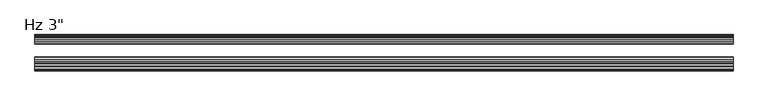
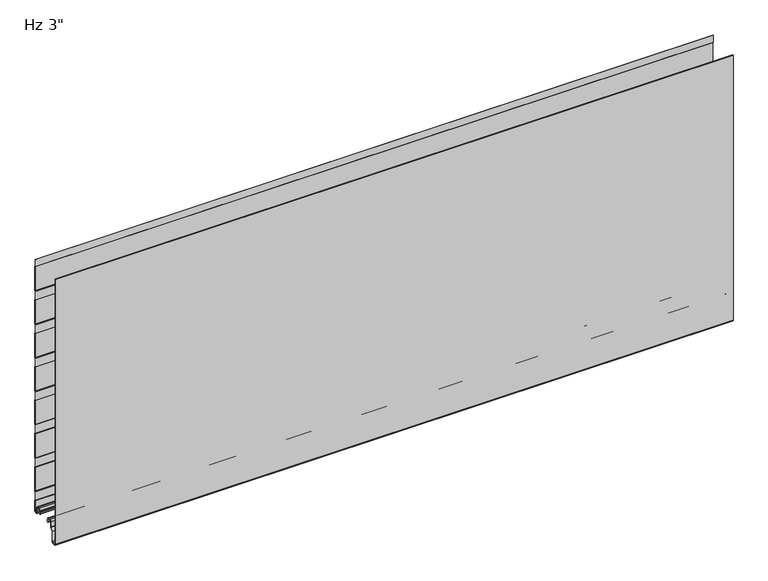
"""IFC4 building model written with IfcOpenShell, lengths in millimetres: plate geometry."""

from ifc_helpers import new_model, si_unit, point, frame, frame_2d, origin, place, context, project, spatial, polyline, circle_curve, trimmed, segment, composite_curve, outline, extrude, source, transform, mapped, element, save
from ifc_brep_helpers import plane_surface, cylinder_surface, revolved_surface, advanced_brep


def plate_374e56f4(model_context):
    return source(origin(), model_context, "Body", "SolidModel", [
        extrude(outline(composite_curve([segment(trimmed(circle_curve(frame_2d((-72.6297491, -32.4521148)), 3.5702393), [point((-72.3184787, -36.0087592))], [point((-76.1999884, -32.4521125))], False, "CARTESIAN"), True, "CONTINUOUS"), segment(polyline([(-76.1999884, -32.4521125), (-76.1996024, 571.2), (-75.1993815, 571.2), (-75.1993815, -32.509446)]), True, "CONTINUOUS"), segment(trimmed(circle_curve(frame_2d((-72.6297816, -32.4521176)), 2.5702393), [point((-75.1993815, -32.509446))], [point((-72.405696, -35.0125699))], True, "CARTESIAN"), True, "CONTINUOUS"), segment(polyline([(-72.405696, -35.0125699), (-67.4238751, -34.5765709)]), True, "CONTINUOUS"), segment(trimmed(circle_curve(frame_2d((-67.9052657, -31.9198392)), 2.6999926), [point((-67.4238751, -34.5765709))], [point((-65.2052731, -31.9198392))], True, "CARTESIAN"), True, "CONTINUOUS"), segment(polyline([(-65.2052731, -31.9198392), (-65.2052731, -9.8247096), (-59.703202, -4.3226385)]), True, "CONTINUOUS"), segment(trimmed(circle_curve(frame_2d((-60.9052797, -3.1205608)), 1.6999946), [point((-59.703202, -4.3226385))], [point((-59.2052851, -3.1205608))], True, "CARTESIAN"), True, "CONTINUOUS"), segment(polyline([(-59.2052851, -3.1205608), (-59.2052851, 8.6903283)]), True, "CONTINUOUS"), segment(trimmed(circle_curve(frame_2d((-55.8552898, 8.6903283)), 3.3499953), [point((-59.2052851, 8.6903283))], [point((-55.8552898, 12.0403236))], False, "CARTESIAN"), True, "CONTINUOUS"), segment(polyline([(-55.8552898, 12.0403236), (-51.4552986, 12.0403236)]), True, "CONTINUOUS"), segment(trimmed(circle_curve(frame_2d((-51.4552986, 8.6903283)), 3.3499953), [point((-51.4552986, 12.0403236))], [point((-48.1053033, 8.6903283))], False, "CARTESIAN"), True, "CONTINUOUS"), segment(polyline([(-48.1053033, 8.6903283), (-48.1053033, 5.9912173), (-46.7068244, 5.9912173), (-46.7068244, 2.2328239)]), True, "CONTINUOUS"), segment(trimmed(circle_curve(frame_2d((-47.9068211, 2.2313092)), 1.1999976), [point((-46.7068244, 2.2328239))], [point((-47.8762992, 1.0316999))], False, "CARTESIAN"), True, "CONTINUOUS"), segment(trimmed(circle_curve(frame_2d((-47.9068211, 2.2313092)), 1.1999976), [point((-47.8762992, 1.0316999))], [point((-49.1053033, 2.1710221))], False, "CARTESIAN"), True, "CONTINUOUS"), segment(polyline([(-49.1053033, 2.1710221), (-49.1053033, 8.6903283)]), True, "CONTINUOUS"), segment(trimmed(circle_curve(frame_2d((-51.4552986, 8.6903283)), 2.3499953), [point((-49.1053033, 8.6903283))], [point((-51.4552986, 11.0403236))], True, "CARTESIAN"), True, "CONTINUOUS"), segment(polyline([(-51.4552986, 11.0403236), (-55.8552898, 11.0403236)]), True, "CONTINUOUS"), segment(trimmed(circle_curve(frame_2d((-55.8552898, 8.6903283)), 2.3499953), [point((-55.8552898, 11.0403236))], [point((-58.2052851, 8.6903283))], True, "CARTESIAN"), True, "CONTINUOUS"), segment(polyline([(-58.2052851, 8.6903283), (-58.2052851, -3.1205608)]), True, "CONTINUOUS"), segment(trimmed(circle_curve(frame_2d((-60.9052797, -3.1205608)), 2.6999946), [point((-58.2052851, -3.1205608))], [point((-58.9960952, -5.0297453))], False, "CARTESIAN"), True, "CONTINUOUS"), segment(polyline([(-58.9960952, -5.0297453), (-63.8245127, -9.8581627)]), True, "CONTINUOUS"), segment(trimmed(circle_curve(frame_2d((-62.9052757, -10.7773997)), 1.2999974), [point((-63.8245127, -9.8581627))], [point((-64.2052731, -10.7773997))], True, "CARTESIAN"), True, "CONTINUOUS"), segment(polyline([(-64.2052731, -10.7773997), (-64.2052731, -31.9198392)]), True, "CONTINUOUS"), segment(trimmed(circle_curve(frame_2d((-67.9052657, -31.9198392)), 3.6999926), [point((-64.2052731, -31.9198392))], [point((-67.2944646, -35.5690675))], False, "CARTESIAN"), True, "CONTINUOUS"), segment(polyline([(-67.2944646, -35.5690675), (-72.3184787, -36.0087592)]), True, "CONTINUOUS")], self_intersect=False)), frame((-730.0, 0.0, 0.0), z_axis=(1.0, 0.0, 0.0), x_axis=(0.0, 1.0, 0.0)), (0.0, 0.0, 1.0), 1460.0),
        advanced_brep(
        [(-730.0, -17.0015368, 2.0313088), (-730.0, -18.00154, 1.0313116), (-730.0, -19.0015314, 2.0313088), (-730.0, -19.0015314, 6.0315125), (-730.0, -18.0015368, 6.0315125), (-730.0, -18.0015368, 8.7237223), (-730.0, -14.7015411, 12.023718), (-730.0, -10.3015499, 12.023718), (-730.0, -7.0015544, 8.7237225), (-730.0, -7.0015544, -1.6962564), (-730.0, -5.2315602, -3.4662506), (-730.0, -1.0000126, -3.4662506), (-730.0, -1.0000126, 21.034026), (-730.0, -2.2002516, 22.4196686), (-730.0, -2.2002516, 41.7948349), (-730.0, -1.0000209, 43.1804679), (-730.0, -1.0000209, 97.2338833), (-730.0, -2.2002516, 98.6195162), (-730.0, -2.2002516, 117.9946825), (-730.0, -1.0000209, 119.3803155), (-730.0, -1.0000209, 173.4337309), (-730.0, -2.2002516, 174.8193638), (-730.0, -2.2002516, 194.1945301), (-730.0, -1.0000209, 195.5801631), (-730.0, -1.0000209, 249.6335785), (-730.0, -2.2002516, 251.0192114), (-730.0, -2.2002516, 270.3943777), (-730.0, -1.0000209, 271.7800107), (-730.0, -1.0000209, 325.8334261), (-730.0, -2.2002516, 327.219059), (-730.0, -2.2002516, 346.5942253), (-730.0, -1.0000209, 347.9798583), (-730.0, -1.0000209, 402.0332737), (-730.0, -2.2002516, 403.4189066), (-730.0, -2.2002516, 422.7940729), (-730.0, -1.0000209, 424.1797059), (-730.0, -1.0000209, 478.2331213), (-730.0, -2.2002516, 479.6187542), (-730.0, -2.2002516, 498.9939205), (-730.0, -1.0000209, 500.3795535), (-730.0, -1.0000209, 554.4329689), (-730.0, -2.2002516, 555.8186018), (-730.0, -2.2002516, 571.2), (-730.0, -1.2002516, 571.2), (-730.0, -1.2002516, 556.1914823), (-730.0, -0.3418094, 555.2004346), (-730.0, -2.09e-05, 554.2838177), (-730.0, -2.09e-05, 500.5287046), (-730.0, -0.3418094, 499.6120877), (-730.0, -1.2002516, 498.6210401), (-730.0, -1.2002516, 479.9916347), (-730.0, -0.3418094, 479.000587), (-730.0, -2.09e-05, 478.0839701), (-730.0, -2.09e-05, 424.328857), (-730.0, -0.3418094, 423.4122401), (-730.0, -1.2002516, 422.4211925), (-730.0, -1.2002516, 403.7917871), (-730.0, -0.3418094, 402.8007394), (-730.0, -2.09e-05, 401.8841225), (-730.0, -2.09e-05, 348.1290094), (-730.0, -0.3418094, 347.2123925), (-730.0, -1.2002516, 346.2213449), (-730.0, -1.2002516, 327.5919395), (-730.0, -0.3418094, 326.6008918), (-730.0, -2.09e-05, 325.6842749), (-730.0, -2.09e-05, 271.9291618), (-730.0, -0.3418094, 271.0125449), (-730.0, -1.2002516, 270.0214973), (-730.0, -1.2002516, 251.3920919), (-730.0, -0.3418094, 250.4010442), (-730.0, -2.09e-05, 249.4844273), (-730.0, -2.09e-05, 195.7293142), (-730.0, -0.3418094, 194.8126973), (-730.0, -1.2002516, 193.8216497), (-730.0, -1.2002516, 175.1922443), (-730.0, -0.3418094, 174.2011966), (-730.0, -2.09e-05, 173.2845797), (-730.0, -2.09e-05, 119.5294666), (-730.0, -0.3418094, 118.6128497), (-730.0, -1.2002516, 117.6218021), (-730.0, -1.2002516, 98.9923967), (-730.0, -0.3418094, 98.001349), (-730.0, -2.09e-05, 97.0847321), (-730.0, -2.09e-05, 43.329619), (-730.0, -0.3418094, 42.4130021), (-730.0, -1.2002516, 41.4219545), (-730.0, -1.2002516, 22.7925491), (-730.0, -0.3418094, 21.8015014), (-730.0, -2.09e-05, 20.8847931), (-730.0, -1.26e-05, -3.0662545), (-730.0, -1.4000087, -4.4662506), (-730.0, -5.2315602, -4.4662506), (-730.0, -8.0015544, -1.6962564), (-730.0, -8.0015544, 8.7237225), (-730.0, -10.3015499, 11.023718), (-730.0, -14.7015411, 11.023718), (-730.0, -17.0015368, 8.7237223), (730.0, -17.0015368, 2.0313088), (730.0, -17.0015368, 8.7237223), (730.0, -14.7015411, 11.023718), (730.0, -10.3015499, 11.023718), (730.0, -8.0015544, 8.7237225), (730.0, -8.0015544, -1.6962564), (730.0, -5.2315602, -4.4662506), (730.0, -1.4000087, -4.4662506), (730.0, -1.26e-05, -3.0662545), (730.0, -1.26e-05, 20.8848845), (730.0, -0.3418094, 21.8015014), (730.0, -1.2002516, 22.7925491), (730.0, -1.2002516, 41.4219545), (730.0, -0.3418094, 42.4130021), (730.0, -2.09e-05, 43.329619), (730.0, -2.09e-05, 97.0847321), (730.0, -0.3418094, 98.001349), (730.0, -1.2002516, 98.9923967), (730.0, -1.2002516, 117.6218021), (730.0, -0.3418094, 118.6128497), (730.0, -2.09e-05, 119.5294666), (730.0, -2.09e-05, 173.2845797), (730.0, -0.3418094, 174.2011966), (730.0, -1.2002516, 175.1922443), (730.0, -1.2002516, 193.8216497), (730.0, -0.3418094, 194.8126973), (730.0, -2.09e-05, 195.7293142), (730.0, -2.09e-05, 249.4844273), (730.0, -0.3418094, 250.4010442), (730.0, -1.2002516, 251.3920919), (730.0, -1.2002516, 270.0214973), (730.0, -0.3418094, 271.0125449), (730.0, -2.09e-05, 271.9291618), (730.0, -2.09e-05, 325.6842749), (730.0, -0.3418094, 326.6008918), (730.0, -1.2002516, 327.5919395), (730.0, -1.2002516, 346.2213449), (730.0, -0.3418094, 347.2123925), (730.0, -2.09e-05, 348.1290094), (730.0, -2.09e-05, 401.8841225), (730.0, -0.3418094, 402.8007394), (730.0, -1.2002516, 403.7917871), (730.0, -1.2002516, 422.4211925), (730.0, -0.3418094, 423.4122401), (730.0, -2.09e-05, 424.328857), (730.0, -2.09e-05, 478.0839701), (730.0, -0.3418094, 479.000587), (730.0, -1.2002516, 479.9916347), (730.0, -1.2002516, 498.6210401), (730.0, -0.3418094, 499.6120877), (730.0, -2.09e-05, 500.5287046), (730.0, -2.09e-05, 554.2838177), (730.0, -0.3418094, 555.2004346), (730.0, -1.2002516, 556.1914823), (730.0, -1.2002516, 571.2), (730.0, -2.2002516, 571.2), (730.0, -2.2002516, 555.8186018), (730.0, -1.0000209, 554.4329689), (730.0, -1.0000209, 500.3795535), (730.0, -2.2002516, 498.9939205), (730.0, -2.2002516, 479.6187542), (730.0, -1.0000209, 478.2331213), (730.0, -1.0000209, 424.1797059), (730.0, -2.2002516, 422.7940729), (730.0, -2.2002516, 403.4189066), (730.0, -1.0000209, 402.0332737), (730.0, -1.0000209, 347.9798583), (730.0, -2.2002516, 346.5942253), (730.0, -2.2002516, 327.219059), (730.0, -1.0000209, 325.8334261), (730.0, -1.0000209, 271.7800107), (730.0, -2.2002516, 270.3943777), (730.0, -2.2002516, 251.0192114), (730.0, -1.0000209, 249.6335785), (730.0, -1.0000209, 195.5801631), (730.0, -2.2002516, 194.1945301), (730.0, -2.2002516, 174.8193638), (730.0, -1.0000209, 173.4337309), (730.0, -1.0000209, 119.3803155), (730.0, -2.2002516, 117.9946825), (730.0, -2.2002516, 98.6195162), (730.0, -1.0000209, 97.2338833), (730.0, -1.0000209, 43.1804679), (730.0, -2.2002516, 41.7948349), (730.0, -2.2002516, 22.4196686), (730.0, -1.0000126, 21.034026), (730.0, -1.0000126, -3.4662506), (730.0, -5.2315602, -3.4662506), (730.0, -7.0015544, -1.6962564), (730.0, -7.0015544, 8.7237225), (730.0, -10.3015499, 12.023718), (730.0, -14.7015411, 12.023718), (730.0, -18.0015368, 8.7237223), (730.0, -18.0015368, 6.0315125), (730.0, -19.0015314, 6.0315125), (730.0, -19.0015314, 2.0313088), (730.0, -18.0015401, 1.0313116)],
        [
            (0, 1, circle_curve(frame((-730.0, -18.0015341, 2.0313088), z_axis=(-1.0, 0.0, 0.0), x_axis=(0.0, 0.0, 1.0)), 0.9999973)),
            (1, 2, circle_curve(frame((-730.0, -18.0015342, 2.0313088), z_axis=(-1.0, 0.0, 0.0), x_axis=(0.0, 0.0, 1.0)), 0.9999972)),
            (2, 3),
            (3, 4),
            (4, 5),
            (5, 6, circle_curve(frame((-730.0, -14.7015411, 8.7237223), z_axis=(-1.0, 0.0, 0.0), x_axis=(0.0, 0.0, 1.0)), 3.2999957)),
            (6, 7),
            (7, 8, circle_curve(frame((-730.0, -10.3015499, 8.7237225), z_axis=(-1.0, 0.0, 0.0), x_axis=(0.0, 0.0, 1.0)), 3.2999955)),
            (8, 9),
            (9, 10, circle_curve(frame((-730.0, -5.2315602, -1.6962564), z_axis=(1.0, 0.0, 0.0), x_axis=(0.0, 0.0, 1.0)), 1.7699942)),
            (10, 11),
            (11, 12),
            (12, 13),
            (13, 14),
            (14, 15),
            (15, 16),
            (16, 17),
            (17, 18),
            (18, 19),
            (19, 20),
            (20, 21),
            (21, 22),
            (22, 23),
            (23, 24),
            (24, 25),
            (25, 26),
            (26, 27),
            (27, 28),
            (28, 29),
            (29, 30),
            (30, 31),
            (31, 32),
            (32, 33),
            (33, 34),
            (34, 35),
            (35, 36),
            (36, 37),
            (37, 38),
            (38, 39),
            (39, 40),
            (40, 41),
            (41, 42),
            (42, 43),
            (43, 44),
            (44, 45),
            (45, 46, circle_curve(frame((-730.0, -1.4000181, 554.2838177), z_axis=(-1.0, 0.0, 0.0), x_axis=(0.0, 0.0, 1.0)), 1.3999972)),
            (46, 47),
            (47, 48, circle_curve(frame((-730.0, -1.4000181, 500.5287046), z_axis=(-1.0, 0.0, 0.0), x_axis=(0.0, 0.0, 1.0)), 1.3999972)),
            (48, 49),
            (49, 50),
            (50, 51),
            (51, 52, circle_curve(frame((-730.0, -1.4000181, 478.0839701), z_axis=(-1.0, 0.0, 0.0), x_axis=(0.0, 0.0, 1.0)), 1.3999972)),
            (52, 53),
            (53, 54, circle_curve(frame((-730.0, -1.4000181, 424.328857), z_axis=(-1.0, 0.0, 0.0), x_axis=(0.0, 0.0, 1.0)), 1.3999972)),
            (54, 55),
            (55, 56),
            (56, 57),
            (57, 58, circle_curve(frame((-730.0, -1.4000181, 401.8841225), z_axis=(-1.0, 0.0, 0.0), x_axis=(0.0, 0.0, 1.0)), 1.3999972)),
            (58, 59),
            (59, 60, circle_curve(frame((-730.0, -1.4000181, 348.1290094), z_axis=(-1.0, 0.0, 0.0), x_axis=(0.0, 0.0, 1.0)), 1.3999972)),
            (60, 61),
            (61, 62),
            (62, 63),
            (63, 64, circle_curve(frame((-730.0, -1.4000181, 325.6842749), z_axis=(-1.0, 0.0, 0.0), x_axis=(0.0, 0.0, 1.0)), 1.3999972)),
            (64, 65),
            (65, 66, circle_curve(frame((-730.0, -1.4000181, 271.9291618), z_axis=(-1.0, 0.0, 0.0), x_axis=(0.0, 0.0, 1.0)), 1.3999972)),
            (66, 67),
            (67, 68),
            (68, 69),
            (69, 70, circle_curve(frame((-730.0, -1.4000181, 249.4844273), z_axis=(-1.0, 0.0, 0.0), x_axis=(0.0, 0.0, 1.0)), 1.3999972)),
            (70, 71),
            (71, 72, circle_curve(frame((-730.0, -1.4000181, 195.7293142), z_axis=(-1.0, 0.0, 0.0), x_axis=(0.0, 0.0, 1.0)), 1.3999972)),
            (72, 73),
            (73, 74),
            (74, 75),
            (75, 76, circle_curve(frame((-730.0, -1.4000181, 173.2845797), z_axis=(-1.0, 0.0, 0.0), x_axis=(0.0, 0.0, 1.0)), 1.3999972)),
            (76, 77),
            (77, 78, circle_curve(frame((-730.0, -1.4000181, 119.5294666), z_axis=(-1.0, 0.0, 0.0), x_axis=(0.0, 0.0, 1.0)), 1.3999972)),
            (78, 79),
            (79, 80),
            (80, 81),
            (81, 82, circle_curve(frame((-730.0, -1.4000181, 97.0847321), z_axis=(-1.0, 0.0, 0.0), x_axis=(0.0, 0.0, 1.0)), 1.3999972)),
            (82, 83),
            (83, 84, circle_curve(frame((-730.0, -1.4000181, 43.329619), z_axis=(-1.0, 0.0, 0.0), x_axis=(0.0, 0.0, 1.0)), 1.3999972)),
            (84, 85),
            (85, 86),
            (86, 87),
            (87, 88, circle_curve(frame((-730.0, -1.4000181, 20.8848845), z_axis=(-1.0, 0.0, 0.0), x_axis=(0.0, 0.0, 1.0)), 1.3999972)),
            (88, 89),
            (89, 90, circle_curve(frame((-730.0, -1.4000087, -3.0662545), z_axis=(-1.0, 0.0, 0.0), x_axis=(0.0, 0.0, 1.0)), 1.3999962)),
            (90, 91),
            (91, 92, circle_curve(frame((-730.0, -5.2315602, -1.6962564), z_axis=(-1.0, 0.0, 0.0), x_axis=(0.0, 0.0, 1.0)), 2.7699942)),
            (92, 93),
            (93, 94, circle_curve(frame((-730.0, -10.3015499, 8.7237225), z_axis=(1.0, 0.0, 0.0), x_axis=(0.0, 0.0, 1.0)), 2.2999955)),
            (94, 95),
            (95, 96, circle_curve(frame((-730.0, -14.7015411, 8.7237223), z_axis=(1.0, 0.0, 0.0), x_axis=(0.0, 0.0, 1.0)), 2.2999957)),
            (96, 0),
            (97, 98),
            (98, 99, circle_curve(frame((730.0, -14.7015411, 8.7237223), z_axis=(-1.0, 0.0, 0.0), x_axis=(0.0, 0.0, 1.0)), 2.2999957)),
            (99, 100),
            (100, 101, circle_curve(frame((730.0, -10.3015499, 8.7237225), z_axis=(-1.0, 0.0, 0.0), x_axis=(0.0, 0.0, 1.0)), 2.2999955)),
            (101, 102),
            (102, 103, circle_curve(frame((730.0, -5.2315602, -1.6962564), z_axis=(1.0, 0.0, 0.0), x_axis=(0.0, 0.0, 1.0)), 2.7699942)),
            (103, 104),
            (104, 105, circle_curve(frame((730.0, -1.4000087, -3.0662545), z_axis=(1.0, 0.0, 0.0), x_axis=(0.0, 0.0, 1.0)), 1.3999962)),
            (105, 106),
            (106, 107, circle_curve(frame((730.0, -1.4000181, 20.8848845), z_axis=(1.0, 0.0, 0.0), x_axis=(0.0, 0.0, 1.0)), 1.3999972)),
            (107, 108),
            (108, 109),
            (109, 110),
            (110, 111, circle_curve(frame((730.0, -1.4000181, 43.329619), z_axis=(1.0, 0.0, 0.0), x_axis=(0.0, 0.0, 1.0)), 1.3999972)),
            (111, 112),
            (112, 113, circle_curve(frame((730.0, -1.4000181, 97.0847321), z_axis=(1.0, 0.0, 0.0), x_axis=(0.0, 0.0, 1.0)), 1.3999972)),
            (113, 114),
            (114, 115),
            (115, 116),
            (116, 117, circle_curve(frame((730.0, -1.4000181, 119.5294666), z_axis=(1.0, 0.0, 0.0), x_axis=(0.0, 0.0, 1.0)), 1.3999972)),
            (117, 118),
            (118, 119, circle_curve(frame((730.0, -1.4000181, 173.2845797), z_axis=(1.0, 0.0, 0.0), x_axis=(0.0, 0.0, 1.0)), 1.3999972)),
            (119, 120),
            (120, 121),
            (121, 122),
            (122, 123, circle_curve(frame((730.0, -1.4000181, 195.7293142), z_axis=(1.0, 0.0, 0.0), x_axis=(0.0, 0.0, 1.0)), 1.3999972)),
            (123, 124),
            (124, 125, circle_curve(frame((730.0, -1.4000181, 249.4844273), z_axis=(1.0, 0.0, 0.0), x_axis=(0.0, 0.0, 1.0)), 1.3999972)),
            (125, 126),
            (126, 127),
            (127, 128),
            (128, 129, circle_curve(frame((730.0, -1.4000181, 271.9291618), z_axis=(1.0, 0.0, 0.0), x_axis=(0.0, 0.0, 1.0)), 1.3999972)),
            (129, 130),
            (130, 131, circle_curve(frame((730.0, -1.4000181, 325.6842749), z_axis=(1.0, 0.0, 0.0), x_axis=(0.0, 0.0, 1.0)), 1.3999972)),
            (131, 132),
            (132, 133),
            (133, 134),
            (134, 135, circle_curve(frame((730.0, -1.4000181, 348.1290094), z_axis=(1.0, 0.0, 0.0), x_axis=(0.0, 0.0, 1.0)), 1.3999972)),
            (135, 136),
            (136, 137, circle_curve(frame((730.0, -1.4000181, 401.8841225), z_axis=(1.0, 0.0, 0.0), x_axis=(0.0, 0.0, 1.0)), 1.3999972)),
            (137, 138),
            (138, 139),
            (139, 140),
            (140, 141, circle_curve(frame((730.0, -1.4000181, 424.328857), z_axis=(1.0, 0.0, 0.0), x_axis=(0.0, 0.0, 1.0)), 1.3999972)),
            (141, 142),
            (142, 143, circle_curve(frame((730.0, -1.4000181, 478.0839701), z_axis=(1.0, 0.0, 0.0), x_axis=(0.0, 0.0, 1.0)), 1.3999972)),
            (143, 144),
            (144, 145),
            (145, 146),
            (146, 147, circle_curve(frame((730.0, -1.4000181, 500.5287046), z_axis=(1.0, 0.0, 0.0), x_axis=(0.0, 0.0, 1.0)), 1.3999972)),
            (147, 148),
            (148, 149, circle_curve(frame((730.0, -1.4000181, 554.2838177), z_axis=(1.0, 0.0, 0.0), x_axis=(0.0, 0.0, 1.0)), 1.3999972)),
            (149, 150),
            (150, 151),
            (151, 152),
            (152, 153),
            (153, 154),
            (154, 155),
            (155, 156),
            (156, 157),
            (157, 158),
            (158, 159),
            (159, 160),
            (160, 161),
            (161, 162),
            (162, 163),
            (163, 164),
            (164, 165),
            (165, 166),
            (166, 167),
            (167, 168),
            (168, 169),
            (169, 170),
            (170, 171),
            (171, 172),
            (172, 173),
            (173, 174),
            (174, 175),
            (175, 176),
            (176, 177),
            (177, 178),
            (178, 179),
            (179, 180),
            (180, 181),
            (181, 182),
            (182, 183),
            (183, 184),
            (184, 185, circle_curve(frame((730.0, -5.2315602, -1.6962564), z_axis=(-1.0, 0.0, 0.0), x_axis=(0.0, 0.0, 1.0)), 1.7699942)),
            (185, 186),
            (186, 187, circle_curve(frame((730.0, -10.3015499, 8.7237225), z_axis=(1.0, 0.0, 0.0), x_axis=(0.0, 0.0, 1.0)), 3.2999955)),
            (187, 188),
            (188, 189, circle_curve(frame((730.0, -14.7015411, 8.7237223), z_axis=(1.0, 0.0, 0.0), x_axis=(0.0, 0.0, 1.0)), 3.2999957)),
            (189, 190),
            (190, 191),
            (191, 192),
            (192, 193, circle_curve(frame((730.0, -18.0015342, 2.0313088), z_axis=(1.0, 0.0, 0.0), x_axis=(0.0, 0.0, 1.0)), 0.9999972)),
            (193, 97, circle_curve(frame((730.0, -18.0015341, 2.0313088), z_axis=(1.0, 0.0, 0.0), x_axis=(0.0, 0.0, 1.0)), 0.9999973)),
            (42, 152),
            (151, 43),
            (96, 98),
            (97, 0),
            (95, 99),
            (94, 100),
            (93, 101),
            (92, 102),
            (91, 103),
            (90, 104),
            (89, 105),
            (88, 106),
            (87, 107),
            (86, 108),
            (85, 109),
            (84, 110),
            (83, 111),
            (82, 112),
            (81, 113),
            (80, 114),
            (79, 115),
            (78, 116),
            (77, 117),
            (76, 118),
            (75, 119),
            (74, 120),
            (73, 121),
            (72, 122),
            (71, 123),
            (70, 124),
            (69, 125),
            (68, 126),
            (67, 127),
            (66, 128),
            (65, 129),
            (64, 130),
            (63, 131),
            (62, 132),
            (61, 133),
            (60, 134),
            (59, 135),
            (58, 136),
            (57, 137),
            (56, 138),
            (55, 139),
            (54, 140),
            (53, 141),
            (52, 142),
            (51, 143),
            (50, 144),
            (49, 145),
            (48, 146),
            (47, 147),
            (46, 148),
            (45, 149),
            (44, 150),
            (41, 153),
            (40, 154),
            (39, 155),
            (38, 156),
            (37, 157),
            (36, 158),
            (35, 159),
            (34, 160),
            (33, 161),
            (32, 162),
            (31, 163),
            (30, 164),
            (29, 165),
            (28, 166),
            (27, 167),
            (26, 168),
            (25, 169),
            (24, 170),
            (23, 171),
            (22, 172),
            (21, 173),
            (20, 174),
            (19, 175),
            (18, 176),
            (17, 177),
            (16, 178),
            (15, 179),
            (14, 180),
            (13, 181),
            (12, 182),
            (11, 183),
            (10, 184),
            (9, 185),
            (8, 186),
            (7, 187),
            (6, 188),
            (5, 189),
            (4, 190),
            (3, 191),
            (2, 192),
            (1, 193),
        ],
        [
            plane_surface(frame((-730.0, -2.09e-05, 457.2), z_axis=(-1.0, 0.0, 0.0), x_axis=(0.0, 1.0, 0.0))),
            plane_surface(frame((730.0, -2.09e-05, 457.2), z_axis=(1.0, 0.0, 0.0), x_axis=(0.0, 1.0, 0.0))),
            plane_surface(frame((730.0, 9.9999791, 571.2), z_axis=(0.0, 0.0, 1.0), x_axis=(-1.0, 0.0, 0.0))),
            plane_surface(frame((-730.0, -17.0015368, 2.0313088), z_axis=(0.0, 1.0, 0.0), x_axis=(1.0, 0.0, 0.0))),
            revolved_surface(polyline([(730.0, -14.7015411, 11.023718), (-730.0, -14.7015411, 11.023718)]), (-730.0, -14.7015411, 8.7237223), (1.0, 0.0, 0.0)),
            plane_surface(frame((-730.0, -14.7015411, 11.023718), z_axis=(0.0, 0.0, -1.0), x_axis=(1.0, 0.0, 0.0))),
            revolved_surface(polyline([(730.0, -10.3015499, 11.023717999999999), (-730.0, -10.3015499, 11.023717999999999)]), (-730.0, -10.3015499, 8.7237225), (1.0, 0.0, 0.0)),
            plane_surface(frame((-730.0, -8.0015544, 8.7237225), z_axis=(0.0, -1.0, 0.0), x_axis=(1.0, 0.0, 0.0))),
            cylinder_surface(frame((-730.0, -5.2315602, -1.6962564), z_axis=(-1.0, 0.0, 0.0), x_axis=(0.0, 0.0, 1.0)), 2.7699942),
            plane_surface(frame((-730.0, -5.2315602, -4.4662506), z_axis=(0.0, 0.0, -1.0), x_axis=(1.0, 0.0, 0.0))),
            cylinder_surface(frame((-730.0, -1.4000087, -3.0662545), z_axis=(-1.0, 0.0, 0.0), x_axis=(0.0, 0.0, 1.0)), 1.3999962),
            plane_surface(frame((-730.0, -1.26e-05, -3.0662545), z_axis=(0.0, 1.0, 0.0), x_axis=(1.0, 0.0, 0.0))),
            cylinder_surface(frame((-730.0, -1.4000181, 20.8848845), z_axis=(-1.0, 0.0, 0.0), x_axis=(0.0, 0.0, 1.0)), 1.3999972),
            plane_surface(frame((-730.0, -0.3418094, 21.8015014), z_axis=(0.0, 0.755864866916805, 0.6547276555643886), x_axis=(1.0, 0.0, 0.0))),
            plane_surface(frame((-730.0, -1.2002516, 32.1072518), z_axis=(0.0, 1.0, 0.0), x_axis=(1.0, 0.0, 0.0))),
            plane_surface(frame((-730.0, -1.2002516, 41.4219545), z_axis=(0.0, 0.755864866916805, -0.6547276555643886), x_axis=(1.0, 0.0, 0.0))),
            cylinder_surface(frame((-730.0, -1.4000181, 43.329619), z_axis=(-1.0, 0.0, 0.0), x_axis=(0.0, 0.0, 1.0)), 1.3999972),
            plane_surface(frame((-730.0, -2.09e-05, 43.329619), z_axis=(0.0, 1.0, 0.0), x_axis=(1.0, 0.0, 0.0))),
            cylinder_surface(frame((-730.0, -1.4000181, 97.0847321), z_axis=(-1.0, 0.0, 0.0), x_axis=(0.0, 0.0, 1.0)), 1.3999972),
            plane_surface(frame((-730.0, -0.3418094, 98.001349), z_axis=(0.0, 0.755864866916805, 0.6547276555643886), x_axis=(1.0, 0.0, 0.0))),
            plane_surface(frame((-730.0, -1.2002516, 108.3070994), z_axis=(0.0, 1.0, 0.0), x_axis=(1.0, 0.0, 0.0))),
            plane_surface(frame((-730.0, -1.2002516, 117.6218021), z_axis=(0.0, 0.755864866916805, -0.6547276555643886), x_axis=(1.0, 0.0, 0.0))),
            cylinder_surface(frame((-730.0, -1.4000181, 119.5294666), z_axis=(-1.0, 0.0, 0.0), x_axis=(0.0, 0.0, 1.0)), 1.3999972),
            plane_surface(frame((-730.0, -2.09e-05, 119.5294666), z_axis=(0.0, 1.0, 0.0), x_axis=(1.0, 0.0, 0.0))),
            cylinder_surface(frame((-730.0, -1.4000181, 173.2845797), z_axis=(-1.0, 0.0, 0.0), x_axis=(0.0, 0.0, 1.0)), 1.3999972),
            plane_surface(frame((-730.0, -0.3418094, 174.2011966), z_axis=(0.0, 0.755864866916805, 0.6547276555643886), x_axis=(1.0, 0.0, 0.0))),
            plane_surface(frame((-730.0, -1.2002516, 184.506947), z_axis=(0.0, 1.0, 0.0), x_axis=(1.0, 0.0, 0.0))),
            plane_surface(frame((-730.0, -1.2002516, 193.8216497), z_axis=(0.0, 0.755864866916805, -0.6547276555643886), x_axis=(1.0, 0.0, 0.0))),
            cylinder_surface(frame((-730.0, -1.4000181, 195.7293142), z_axis=(-1.0, 0.0, 0.0), x_axis=(0.0, 0.0, 1.0)), 1.3999972),
            plane_surface(frame((-730.0, -2.09e-05, 195.7293142), z_axis=(0.0, 1.0, 0.0), x_axis=(1.0, 0.0, 0.0))),
            cylinder_surface(frame((-730.0, -1.4000181, 249.4844273), z_axis=(-1.0, 0.0, 0.0), x_axis=(0.0, 0.0, 1.0)), 1.3999972),
            plane_surface(frame((-730.0, -0.3418094, 250.4010442), z_axis=(0.0, 0.755864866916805, 0.6547276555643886), x_axis=(1.0, 0.0, 0.0))),
            plane_surface(frame((-730.0, -1.2002516, 260.7067946), z_axis=(0.0, 1.0, 0.0), x_axis=(1.0, 0.0, 0.0))),
            plane_surface(frame((-730.0, -1.2002516, 270.0214973), z_axis=(0.0, 0.755864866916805, -0.6547276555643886), x_axis=(1.0, 0.0, 0.0))),
            cylinder_surface(frame((-730.0, -1.4000181, 271.9291618), z_axis=(-1.0, 0.0, 0.0), x_axis=(0.0, 0.0, 1.0)), 1.3999972),
            plane_surface(frame((-730.0, -2.09e-05, 271.9291618), z_axis=(0.0, 1.0, 0.0), x_axis=(1.0, 0.0, 0.0))),
            cylinder_surface(frame((-730.0, -1.4000181, 325.6842749), z_axis=(-1.0, 0.0, 0.0), x_axis=(0.0, 0.0, 1.0)), 1.3999972),
            plane_surface(frame((-730.0, -0.3418094, 326.6008918), z_axis=(0.0, 0.755864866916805, 0.6547276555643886), x_axis=(1.0, 0.0, 0.0))),
            plane_surface(frame((-730.0, -1.2002516, 336.9066422), z_axis=(0.0, 1.0, 0.0), x_axis=(1.0, 0.0, 0.0))),
            plane_surface(frame((-730.0, -1.2002516, 346.2213449), z_axis=(0.0, 0.755864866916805, -0.6547276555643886), x_axis=(1.0, 0.0, 0.0))),
            cylinder_surface(frame((-730.0, -1.4000181, 348.1290094), z_axis=(-1.0, 0.0, 0.0), x_axis=(0.0, 0.0, 1.0)), 1.3999972),
            plane_surface(frame((-730.0, -2.09e-05, 348.1290094), z_axis=(0.0, 1.0, 0.0), x_axis=(1.0, 0.0, 0.0))),
            cylinder_surface(frame((-730.0, -1.4000181, 401.8841225), z_axis=(-1.0, 0.0, 0.0), x_axis=(0.0, 0.0, 1.0)), 1.3999972),
            plane_surface(frame((-730.0, -0.3418094, 402.8007394), z_axis=(0.0, 0.755864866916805, 0.6547276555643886), x_axis=(1.0, 0.0, 0.0))),
            plane_surface(frame((-730.0, -1.2002516, 413.1064898), z_axis=(0.0, 1.0, 0.0), x_axis=(1.0, 0.0, 0.0))),
            plane_surface(frame((-730.0, -1.2002516, 422.4211925), z_axis=(0.0, 0.755864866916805, -0.6547276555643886), x_axis=(1.0, 0.0, 0.0))),
            cylinder_surface(frame((-730.0, -1.4000181, 424.328857), z_axis=(-1.0, 0.0, 0.0), x_axis=(0.0, 0.0, 1.0)), 1.3999972),
            plane_surface(frame((-730.0, -2.09e-05, 424.328857), z_axis=(0.0, 1.0, 0.0), x_axis=(1.0, 0.0, 0.0))),
            cylinder_surface(frame((-730.0, -1.4000181, 478.0839701), z_axis=(-1.0, 0.0, 0.0), x_axis=(0.0, 0.0, 1.0)), 1.3999972),
            plane_surface(frame((-730.0, -0.3418094, 479.000587), z_axis=(0.0, 0.755864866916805, 0.6547276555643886), x_axis=(1.0, 0.0, 0.0))),
            plane_surface(frame((-730.0, -1.2002516, 489.3063374), z_axis=(0.0, 1.0, 0.0), x_axis=(1.0, 0.0, 0.0))),
            plane_surface(frame((-730.0, -1.2002516, 498.6210401), z_axis=(0.0, 0.755864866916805, -0.6547276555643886), x_axis=(1.0, 0.0, 0.0))),
            cylinder_surface(frame((-730.0, -1.4000181, 500.5287046), z_axis=(-1.0, 0.0, 0.0), x_axis=(0.0, 0.0, 1.0)), 1.3999972),
            plane_surface(frame((-730.0, -2.09e-05, 500.5287046), z_axis=(0.0, 1.0, 0.0), x_axis=(1.0, 0.0, 0.0))),
            cylinder_surface(frame((-730.0, -1.4000181, 554.2838177), z_axis=(-1.0, 0.0, 0.0), x_axis=(0.0, 0.0, 1.0)), 1.3999972),
            plane_surface(frame((-730.0, -0.3418094, 555.2004346), z_axis=(0.0, 0.755864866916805, 0.6547276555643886), x_axis=(1.0, 0.0, 0.0))),
            plane_surface(frame((-730.0, -1.2002516, 565.506185), z_axis=(0.0, 1.0, 0.0), x_axis=(1.0, 0.0, 0.0))),
            plane_surface(frame((-730.0, -2.2002516, 575.1937681), z_axis=(0.0, -1.0, 0.0), x_axis=(1.0, 0.0, 0.0))),
            plane_surface(frame((-730.0, -2.2002516, 555.8186018), z_axis=(0.0, -0.755864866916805, -0.6547276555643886), x_axis=(1.0, 0.0, 0.0))),
            plane_surface(frame((-730.0, -1.0000209, 554.4329689), z_axis=(0.0, -1.0, 0.0), x_axis=(1.0, 0.0, 0.0))),
            plane_surface(frame((-730.0, -1.0000209, 500.3795535), z_axis=(0.0, -0.755864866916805, 0.6547276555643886), x_axis=(1.0, 0.0, 0.0))),
            plane_surface(frame((-730.0, -2.2002516, 498.9939205), z_axis=(0.0, -1.0, 0.0), x_axis=(1.0, 0.0, 0.0))),
            plane_surface(frame((-730.0, -2.2002516, 479.6187542), z_axis=(0.0, -0.755864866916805, -0.6547276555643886), x_axis=(1.0, 0.0, 0.0))),
            plane_surface(frame((-730.0, -1.0000209, 478.2331213), z_axis=(0.0, -1.0, 0.0), x_axis=(1.0, 0.0, 0.0))),
            plane_surface(frame((-730.0, -1.0000209, 424.1797059), z_axis=(0.0, -0.755864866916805, 0.6547276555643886), x_axis=(1.0, 0.0, 0.0))),
            plane_surface(frame((-730.0, -2.2002516, 422.7940729), z_axis=(0.0, -1.0, 0.0), x_axis=(1.0, 0.0, 0.0))),
            plane_surface(frame((-730.0, -2.2002516, 403.4189066), z_axis=(0.0, -0.755864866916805, -0.6547276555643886), x_axis=(1.0, 0.0, 0.0))),
            plane_surface(frame((-730.0, -1.0000209, 402.0332737), z_axis=(0.0, -1.0, 0.0), x_axis=(1.0, 0.0, 0.0))),
            plane_surface(frame((-730.0, -1.0000209, 347.9798583), z_axis=(0.0, -0.755864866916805, 0.6547276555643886), x_axis=(1.0, 0.0, 0.0))),
            plane_surface(frame((-730.0, -2.2002516, 346.5942253), z_axis=(0.0, -1.0, 0.0), x_axis=(1.0, 0.0, 0.0))),
            plane_surface(frame((-730.0, -2.2002516, 327.219059), z_axis=(0.0, -0.755864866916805, -0.6547276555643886), x_axis=(1.0, 0.0, 0.0))),
            plane_surface(frame((-730.0, -1.0000209, 325.8334261), z_axis=(0.0, -1.0, 0.0), x_axis=(1.0, 0.0, 0.0))),
            plane_surface(frame((-730.0, -1.0000209, 271.7800107), z_axis=(0.0, -0.755864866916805, 0.6547276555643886), x_axis=(1.0, 0.0, 0.0))),
            plane_surface(frame((-730.0, -2.2002516, 270.3943777), z_axis=(0.0, -1.0, 0.0), x_axis=(1.0, 0.0, 0.0))),
            plane_surface(frame((-730.0, -2.2002516, 251.0192114), z_axis=(0.0, -0.755864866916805, -0.6547276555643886), x_axis=(1.0, 0.0, 0.0))),
            plane_surface(frame((-730.0, -1.0000209, 249.6335785), z_axis=(0.0, -1.0, 0.0), x_axis=(1.0, 0.0, 0.0))),
            plane_surface(frame((-730.0, -1.0000209, 195.5801631), z_axis=(0.0, -0.755864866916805, 0.6547276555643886), x_axis=(1.0, 0.0, 0.0))),
            plane_surface(frame((-730.0, -2.2002516, 194.1945301), z_axis=(0.0, -1.0, 0.0), x_axis=(1.0, 0.0, 0.0))),
            plane_surface(frame((-730.0, -2.2002516, 174.8193638), z_axis=(0.0, -0.755864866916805, -0.6547276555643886), x_axis=(1.0, 0.0, 0.0))),
            plane_surface(frame((-730.0, -1.0000209, 173.4337309), z_axis=(0.0, -1.0, 0.0), x_axis=(1.0, 0.0, 0.0))),
            plane_surface(frame((-730.0, -1.0000209, 119.3803155), z_axis=(0.0, -0.755864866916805, 0.6547276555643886), x_axis=(1.0, 0.0, 0.0))),
            plane_surface(frame((-730.0, -2.2002516, 117.9946825), z_axis=(0.0, -1.0, 0.0), x_axis=(1.0, 0.0, 0.0))),
            plane_surface(frame((-730.0, -2.2002516, 98.6195162), z_axis=(0.0, -0.755864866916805, -0.6547276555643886), x_axis=(1.0, 0.0, 0.0))),
            plane_surface(frame((-730.0, -1.0000209, 97.2338833), z_axis=(0.0, -1.0, 0.0), x_axis=(1.0, 0.0, 0.0))),
            plane_surface(frame((-730.0, -1.0000209, 43.1804679), z_axis=(0.0, -0.755864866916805, 0.6547276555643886), x_axis=(1.0, 0.0, 0.0))),
            plane_surface(frame((-730.0, -2.2002516, 41.7948349), z_axis=(0.0, -1.0, 0.0), x_axis=(1.0, 0.0, 0.0))),
            plane_surface(frame((-730.0, -2.2002516, 22.4196686), z_axis=(0.0, -0.755864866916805, -0.6547276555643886), x_axis=(1.0, 0.0, 0.0))),
            plane_surface(frame((-730.0, -1.0000126, 21.034026), z_axis=(0.0, -1.0, 0.0), x_axis=(1.0, 0.0, 0.0))),
            plane_surface(frame((-730.0, -1.0000126, -3.4662506), z_axis=(0.0, 0.0, 1.0), x_axis=(1.0, 0.0, 0.0))),
            revolved_surface(polyline([(730.0, -5.2315602, 0.07373779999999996), (-730.0, -5.2315602, 0.07373779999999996)]), (-730.0, -5.2315602, -1.6962564), (1.0, 0.0, 0.0)),
            plane_surface(frame((-730.0, -7.0015544, -1.6962564), z_axis=(0.0, 1.0, 0.0), x_axis=(1.0, 0.0, 0.0))),
            cylinder_surface(frame((-730.0, -10.3015499, 8.7237225), z_axis=(-1.0, 0.0, 0.0), x_axis=(0.0, 0.0, 1.0)), 3.2999955),
            plane_surface(frame((-730.0, -10.3015499, 12.023718), z_axis=(0.0, 0.0, 1.0), x_axis=(1.0, 0.0, 0.0))),
            cylinder_surface(frame((-730.0, -14.7015411, 8.7237223), z_axis=(-1.0, 0.0, 0.0), x_axis=(0.0, 0.0, 1.0)), 3.2999957),
            plane_surface(frame((-730.0, -18.0015368, 8.7237223), z_axis=(0.0, -1.0, 0.0), x_axis=(1.0, 0.0, 0.0))),
            plane_surface(frame((-730.0, -18.0015368, 6.0315125), z_axis=(0.0, 0.0, 1.0), x_axis=(1.0, 0.0, 0.0))),
            plane_surface(frame((-730.0, -19.0015314, 6.0315125), z_axis=(0.0, -1.0, 0.0), x_axis=(1.0, 0.0, 0.0))),
            cylinder_surface(frame((-730.0, -18.0015342, 2.0313088), z_axis=(-1.0, 0.0, 0.0), x_axis=(0.0, 0.0, 1.0)), 0.9999972),
            cylinder_surface(frame((-730.0, -18.0015341, 2.0313088), z_axis=(-1.0, 0.0, 0.0), x_axis=(0.0, 0.0, 1.0)), 0.9999973),
        ],
        [
            (0, [[1, 2, 3, 4, 5, 6, 7, 8, 9, 10, 11, 12, 13, 14, 15, 16, 17, 18, 19, 20, 21, 22, 23, 24, 25, 26, 27, 28, 29, 30, 31, 32, 33, 34, 35, 36, 37, 38, 39, 40, 41, 42, 43, 44, 45, 46, 47, 48, 49, 50, 51, 52, 53, 54, 55, 56, 57, 58, 59, 60, 61, 62, 63, 64, 65, 66, 67, 68, 69, 70, 71, 72, 73, 74, 75, 76, 77, 78, 79, 80, 81, 82, 83, 84, 85, 86, 87, 88, 89, 90, 91, 92, 93, 94, 95, 96, 97]]),
            (1, [[98, 99, 100, 101, 102, 103, 104, 105, 106, 107, 108, 109, 110, 111, 112, 113, 114, 115, 116, 117, 118, 119, 120, 121, 122, 123, 124, 125, 126, 127, 128, 129, 130, 131, 132, 133, 134, 135, 136, 137, 138, 139, 140, 141, 142, 143, 144, 145, 146, 147, 148, 149, 150, 151, 152, 153, 154, 155, 156, 157, 158, 159, 160, 161, 162, 163, 164, 165, 166, 167, 168, 169, 170, 171, 172, 173, 174, 175, 176, 177, 178, 179, 180, 181, 182, 183, 184, 185, 186, 187, 188, 189, 190, 191, 192, 193, 194]]),
            (2, [[195, -152, 196, -43]]),
            (3, [[197, -98, 198, -97]]),
            (4, [[199, -99, -197, -96]]),
            (5, [[200, -100, -199, -95]]),
            (6, [[201, -101, -200, -94]]),
            (7, [[202, -102, -201, -93]]),
            (8, [[203, -103, -202, -92]]),
            (9, [[204, -104, -203, -91]]),
            (10, [[205, -105, -204, -90]]),
            (11, [[206, -106, -205, -89]]),
            (12, [[207, -107, -206, -88]]),
            (13, [[208, -108, -207, -87]]),
            (14, [[209, -109, -208, -86]]),
            (15, [[210, -110, -209, -85]]),
            (16, [[211, -111, -210, -84]]),
            (17, [[212, -112, -211, -83]]),
            (18, [[213, -113, -212, -82]]),
            (19, [[214, -114, -213, -81]]),
            (20, [[215, -115, -214, -80]]),
            (21, [[216, -116, -215, -79]]),
            (22, [[217, -117, -216, -78]]),
            (23, [[218, -118, -217, -77]]),
            (24, [[219, -119, -218, -76]]),
            (25, [[220, -120, -219, -75]]),
            (26, [[221, -121, -220, -74]]),
            (27, [[222, -122, -221, -73]]),
            (28, [[223, -123, -222, -72]]),
            (29, [[224, -124, -223, -71]]),
            (30, [[225, -125, -224, -70]]),
            (31, [[226, -126, -225, -69]]),
            (32, [[227, -127, -226, -68]]),
            (33, [[228, -128, -227, -67]]),
            (34, [[229, -129, -228, -66]]),
            (35, [[230, -130, -229, -65]]),
            (36, [[231, -131, -230, -64]]),
            (37, [[232, -132, -231, -63]]),
            (38, [[233, -133, -232, -62]]),
            (39, [[234, -134, -233, -61]]),
            (40, [[235, -135, -234, -60]]),
            (41, [[236, -136, -235, -59]]),
            (42, [[237, -137, -236, -58]]),
            (43, [[238, -138, -237, -57]]),
            (44, [[239, -139, -238, -56]]),
            (45, [[240, -140, -239, -55]]),
            (46, [[241, -141, -240, -54]]),
            (47, [[242, -142, -241, -53]]),
            (48, [[243, -143, -242, -52]]),
            (49, [[244, -144, -243, -51]]),
            (50, [[245, -145, -244, -50]]),
            (51, [[246, -146, -245, -49]]),
            (52, [[247, -147, -246, -48]]),
            (53, [[248, -148, -247, -47]]),
            (54, [[249, -149, -248, -46]]),
            (55, [[250, -150, -249, -45]]),
            (56, [[-44, -196, -151, -250]]),
            (57, [[-153, -195, -42, 251]]),
            (58, [[252, -154, -251, -41]]),
            (59, [[253, -155, -252, -40]]),
            (60, [[254, -156, -253, -39]]),
            (61, [[255, -157, -254, -38]]),
            (62, [[256, -158, -255, -37]]),
            (63, [[257, -159, -256, -36]]),
            (64, [[258, -160, -257, -35]]),
            (65, [[259, -161, -258, -34]]),
            (66, [[260, -162, -259, -33]]),
            (67, [[261, -163, -260, -32]]),
            (68, [[262, -164, -261, -31]]),
            (69, [[263, -165, -262, -30]]),
            (70, [[264, -166, -263, -29]]),
            (71, [[265, -167, -264, -28]]),
            (72, [[266, -168, -265, -27]]),
            (73, [[267, -169, -266, -26]]),
            (74, [[268, -170, -267, -25]]),
            (75, [[269, -171, -268, -24]]),
            (76, [[270, -172, -269, -23]]),
            (77, [[271, -173, -270, -22]]),
            (78, [[272, -174, -271, -21]]),
            (79, [[273, -175, -272, -20]]),
            (80, [[274, -176, -273, -19]]),
            (81, [[275, -177, -274, -18]]),
            (82, [[276, -178, -275, -17]]),
            (83, [[277, -179, -276, -16]]),
            (84, [[278, -180, -277, -15]]),
            (85, [[279, -181, -278, -14]]),
            (86, [[280, -182, -279, -13]]),
            (87, [[281, -183, -280, -12]]),
            (88, [[282, -184, -281, -11]]),
            (89, [[283, -185, -282, -10]]),
            (90, [[284, -186, -283, -9]]),
            (91, [[285, -187, -284, -8]]),
            (92, [[286, -188, -285, -7]]),
            (93, [[287, -189, -286, -6]]),
            (94, [[288, -190, -287, -5]]),
            (95, [[289, -191, -288, -4]]),
            (96, [[290, -192, -289, -3]]),
            (97, [[291, -193, -290, -2]]),
            (98, [[-198, -194, -291, -1]]),
        ],
    ),
    ])


if __name__ == "__main__":
    model = new_model("IFC4")
    model_context = context("Model", 3, world=origin())
    ifc_project = project(units=[si_unit("LENGTHUNIT", "METRE", prefix="MILLI")], contexts=[model_context])
    site = spatial("IfcSite", under=ifc_project)
    building = spatial("IfcBuilding", under=site)
    placement = place(None, origin())
    plate_shape = plate_374e56f4(model_context)
    element("IfcPlate", 1, ObjectType="KIP-36-Karrier-KP-R19-CP-Hz-FL3-8in_SL : Hz 3\"", at=placement, inside=building, context=model_context, shape_type="MappedRepresentation", body=[
        mapped(plate_shape, transform((0.0, 0.0, 0.0), x_axis=(1.0, 0.0, 0.0), y_axis=(0.0, 1.0, 0.0), z_axis=(0.0, 0.0, 1.0))),
    ])
    save(model, "model.ifc")
